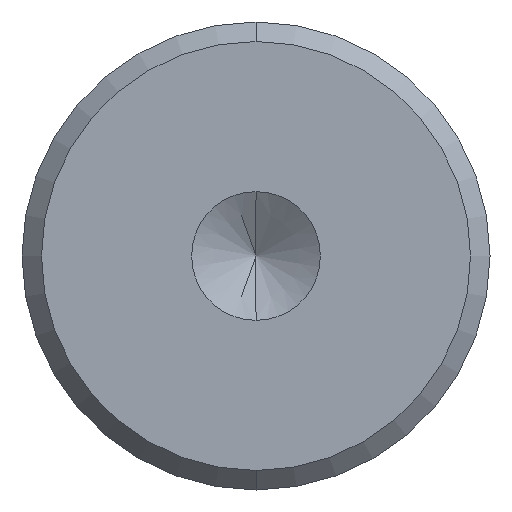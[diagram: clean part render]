
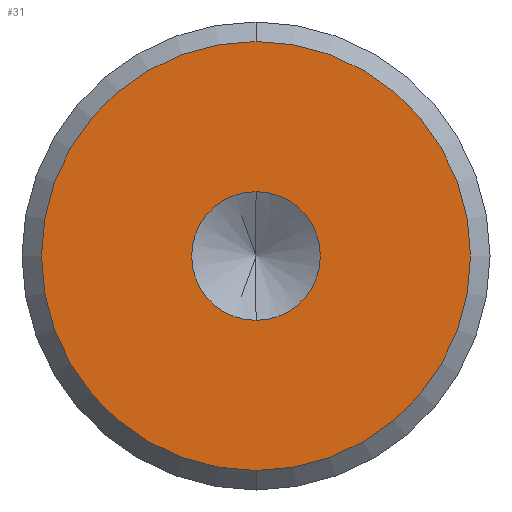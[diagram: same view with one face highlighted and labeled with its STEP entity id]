
A CAD part, front view. The second image highlights one B-rep face of the part: STEP entity #31.
In plain terms, the highlighted planar face has unit normal (0, -1, 0).
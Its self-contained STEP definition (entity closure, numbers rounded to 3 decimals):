
#2 = CIRCLE ( 'NONE', #484, 1.65 ) ;
#30 = DIRECTION ( 'NONE',  ( 0., -1., 0. ) ) ;
#31 = ADVANCED_FACE ( 'NONE', ( #175, #276 ), #207, .F. ) ;
#36 = CARTESIAN_POINT ( 'NONE',  ( 0., 0., -5.5 ) ) ;
#45 = AXIS2_PLACEMENT_3D ( 'NONE', #102, #375, #147 ) ;
#47 = CIRCLE ( 'NONE', #220, 1.65 ) ;
#59 = VERTEX_POINT ( 'NONE', #138 ) ;
#88 = DIRECTION ( 'NONE',  ( 0., 0., -1. ) ) ;
#89 = DIRECTION ( 'NONE',  ( 0., 0., 1. ) ) ;
#102 = CARTESIAN_POINT ( 'NONE',  ( 0., 0., 0. ) ) ;
#104 = EDGE_LOOP ( 'NONE', ( #504, #260 ) ) ;
#119 = CIRCLE ( 'NONE', #180, 5.5 ) ;
#126 = ORIENTED_EDGE ( 'NONE', *, *, #365, .F. ) ;
#138 = CARTESIAN_POINT ( 'NONE',  ( 0., 0., -1.65 ) ) ;
#147 = DIRECTION ( 'NONE',  ( 0., 0., 1. ) ) ;
#175 = FACE_BOUND ( 'NONE', #393, .T. ) ;
#180 = AXIS2_PLACEMENT_3D ( 'NONE', #379, #30, #493 ) ;
#203 = CARTESIAN_POINT ( 'NONE',  ( 0., 0., 0. ) ) ;
#207 = PLANE ( 'NONE',  #483 ) ;
#220 = AXIS2_PLACEMENT_3D ( 'NONE', #352, #240, #88 ) ;
#221 = EDGE_CURVE ( 'NONE', #286, #485, #500, .T. ) ;
#239 = EDGE_CURVE ( 'NONE', #485, #286, #119, .T. ) ;
#240 = DIRECTION ( 'NONE',  ( 0., -1., 0. ) ) ;
#247 = CARTESIAN_POINT ( 'NONE',  ( 0., 0., 0. ) ) ;
#260 = ORIENTED_EDGE ( 'NONE', *, *, #221, .T. ) ;
#276 = FACE_OUTER_BOUND ( 'NONE', #104, .T. ) ;
#286 = VERTEX_POINT ( 'NONE', #36 ) ;
#292 = CARTESIAN_POINT ( 'NONE',  ( 0., 0., 5.5 ) ) ;
#321 = DIRECTION ( 'NONE',  ( 0., 1., 0. ) ) ;
#328 = CARTESIAN_POINT ( 'NONE',  ( 0., 0., 1.65 ) ) ;
#352 = CARTESIAN_POINT ( 'NONE',  ( 0., 0., 0. ) ) ;
#365 = EDGE_CURVE ( 'NONE', #467, #59, #47, .T. ) ;
#375 = DIRECTION ( 'NONE',  ( 0., -1., 0. ) ) ;
#379 = CARTESIAN_POINT ( 'NONE',  ( 0., 0., 0. ) ) ;
#393 = EDGE_LOOP ( 'NONE', ( #440, #126 ) ) ;
#428 = EDGE_CURVE ( 'NONE', #59, #467, #2, .T. ) ;
#440 = ORIENTED_EDGE ( 'NONE', *, *, #428, .F. ) ;
#449 = DIRECTION ( 'NONE',  ( 0., -1., 0. ) ) ;
#467 = VERTEX_POINT ( 'NONE', #328 ) ;
#475 = DIRECTION ( 'NONE',  ( 0., 0., -1. ) ) ;
#483 = AXIS2_PLACEMENT_3D ( 'NONE', #203, #321, #89 ) ;
#484 = AXIS2_PLACEMENT_3D ( 'NONE', #247, #449, #475 ) ;
#485 = VERTEX_POINT ( 'NONE', #292 ) ;
#493 = DIRECTION ( 'NONE',  ( 0., 0., 1. ) ) ;
#500 = CIRCLE ( 'NONE', #45, 5.5 ) ;
#504 = ORIENTED_EDGE ( 'NONE', *, *, #239, .T. ) ;
